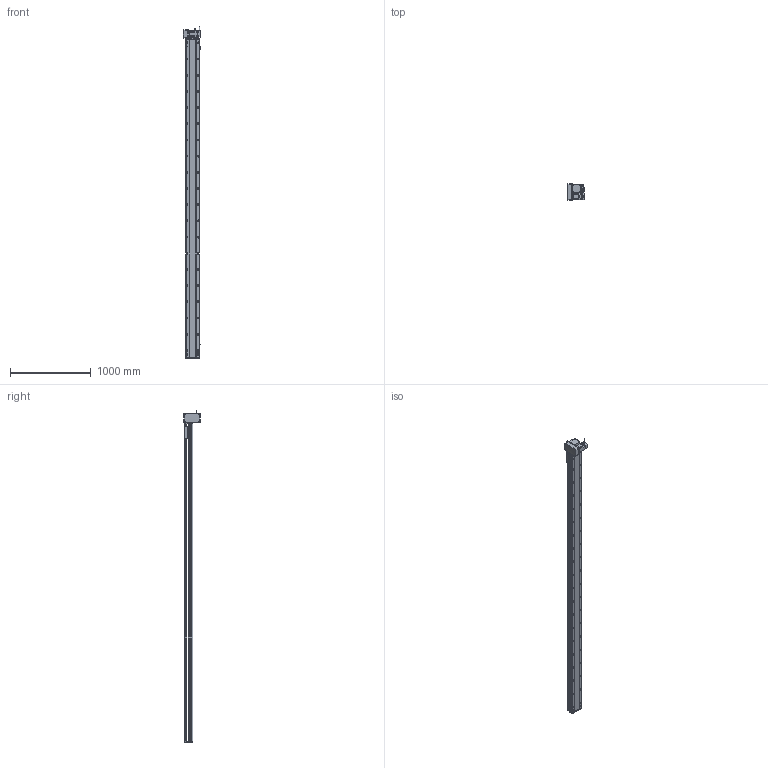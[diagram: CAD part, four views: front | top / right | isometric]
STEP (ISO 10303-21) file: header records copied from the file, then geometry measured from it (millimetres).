
FILE_DESCRIPTION (( 'STEP AP214' ), '1' );
FILE_NAME ('RTB17S-XX-3650-LM-M75-C4.STEP', '2025-12-12T00:53:32', ( '' ), ( '' ), 'SwSTEP 2.0', 'SolidWorks 2018', '' );
FILE_SCHEMA (( 'AUTOMOTIVE_DESIGN' ));
Length unit declared in the file: millimetre
Products named in the file (15): 750W萇儂^RTB17S-XX-XX-LM-M75-C4; RTB22S-GY-008-M75--萇儂啣^RTB17S-LM-々湍釱蚾饜-750W_RTB17S-XX-XX-LM-M75-C4; RTB22S-GY-017P^RTB17S-LM-々湍釱蚾饜-750W_RTB17S-XX-XX-LM-M75-C4; RTB22S-GY-005P^RTB17S-LM-々湍釱蚾饜-750W_RTB17S-XX-XX-LM-M75-C4; RTB17S-L-014-T20-P75--々湍釱^RTB17S-LM-々湍釱蚾饜-750W_RTB17S-XX-XX-LM-M75-C4; RTB17S-XX-3650-LM-M75-C4; RTB17S-賑釱^RTB17S-XX-XX-LM-M75-C4; RTB17S-LM-々湍釱蚾饜-750W^RTB17S-XX-XX-LM-M75-C4; RTB17S-L-004-賑釱^RTB17S-賑釱_RTB17S-XX-XX-LM-M75-C4; RTB17S-L-001-耜醱啣^RTB17S-XX-XX-LM-M75-C4; EE672^RTB17S-XX-XX-LM-M75-C4; RTB17S-L-007奻裔^RTB17S-XX-XX-LM-M75-C4; RTH13-BL-012覜茼え俋离^RTB17S-賑釱_RTB17S-XX-XX-LM-M75-C4; RTB22S-GY-018P^RTB17S-LM-々湍釱蚾饜-750W_RTB17S-XX-XX-LM-M75-C4; RTB17-R-011菁釱^RTB17S-XX-XX-LM-M75-C4
Assembly tree (17 placements, depth 3):
  RTB17S-XX-3650-LM-M75-C4
    RTB17-R-011菁釱^RTB17S-XX-XX-LM-M75-C4
    EE672^RTB17S-XX-XX-LM-M75-C4  x3
    RTB17S-L-001-耜醱啣^RTB17S-XX-XX-LM-M75-C4
    RTB17S-賑釱^RTB17S-XX-XX-LM-M75-C4
      RTB17S-L-004-賑釱^RTB17S-賑釱_RTB17S-XX-XX-LM-M75-C4
      RTH13-BL-012覜茼え俋离^RTB17S-賑釱_RTB17S-XX-XX-LM-M75-C4
    RTB17S-L-007奻裔^RTB17S-XX-XX-LM-M75-C4
    750W萇儂^RTB17S-XX-XX-LM-M75-C4
    RTB17S-LM-々湍釱蚾饜-750W^RTB17S-XX-XX-LM-M75-C4
      RTB17S-L-014-T20-P75--々湍釱^RTB17S-LM-々湍釱蚾饜-750W_RTB17S-XX-XX-LM-M75-C4
      RTB22S-GY-005P^RTB17S-LM-々湍釱蚾饜-750W_RTB17S-XX-XX-LM-M75-C4
      RTB22S-GY-017P^RTB17S-LM-々湍釱蚾饜-750W_RTB17S-XX-XX-LM-M75-C4  x2
      RTB22S-GY-008-M75--萇儂啣^RTB17S-LM-々湍釱蚾饜-750W_RTB17S-XX-XX-LM-M75-C4
      RTB22S-GY-018P^RTB17S-LM-々湍釱蚾饜-750W_RTB17S-XX-XX-LM-M75-C4
Bounding box: 210.4 x 200 x 4102.2 mm (x, y, z)
Volume: 28761467.8 mm3; surface area: 5327790.1 mm2
Topology: 17 solids, 17 shells, 2313 faces, 6538 edges, 4238 vertices
Faces by surface type: plane 998, cylinder 899, bspline 294, cone 110, sphere 8, torus 4
Entity records: 68854 total; most frequent: CARTESIAN_POINT 20602, ORIENTED_EDGE 9920, DIRECTION 9122, EDGE_CURVE 4960, AXIS2_PLACEMENT_3D 3258, VERTEX_POINT 3242, VECTOR 2606, LINE 2606
